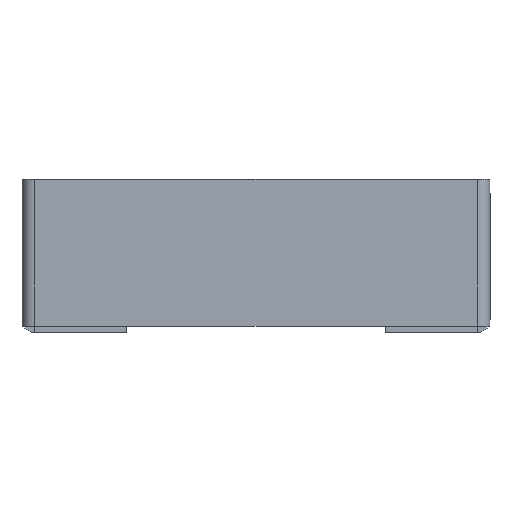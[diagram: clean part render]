
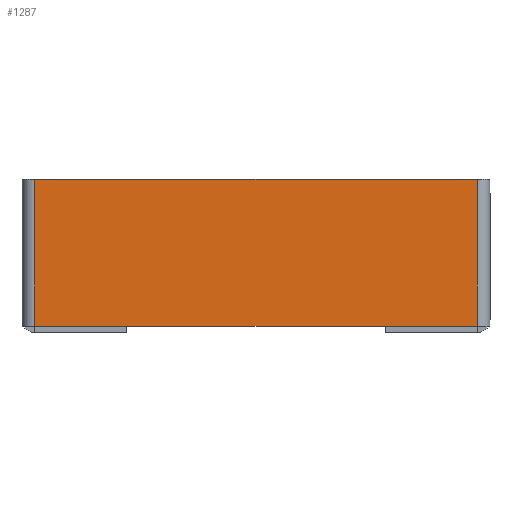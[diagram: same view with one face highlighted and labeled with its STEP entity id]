
A CAD part, front view. The second image highlights one B-rep face of the part: STEP entity #1287.
In plain terms, the highlighted planar face has unit normal (0, -1, 0).
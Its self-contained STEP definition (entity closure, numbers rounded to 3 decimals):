
#87 = LINE ( 'NONE', #2605, #1845 ) ;
#188 = EDGE_LOOP ( 'NONE', ( #3278, #5885, #3639, #2317 ) ) ;
#273 = VECTOR ( 'NONE', #1459, 1000. ) ;
#549 = DIRECTION ( 'NONE',  ( 0., 0., 1. ) ) ;
#673 = DIRECTION ( 'NONE',  ( 1., 0., 0. ) ) ;
#1023 = VERTEX_POINT ( 'NONE', #2453 ) ;
#1075 = CARTESIAN_POINT ( 'NONE',  ( -87.5, -2.5, 0. ) ) ;
#1118 = LINE ( 'NONE', #5063, #1982 ) ;
#1287 = ADVANCED_FACE ( 'NONE', ( #2831 ), #3274, .F. ) ;
#1459 = DIRECTION ( 'NONE',  ( -1., 0., 0. ) ) ;
#1481 = VERTEX_POINT ( 'NONE', #6071 ) ;
#1611 = VERTEX_POINT ( 'NONE', #2088 ) ;
#1640 = EDGE_CURVE ( 'NONE', #1023, #1481, #87, .T. ) ;
#1783 = EDGE_CURVE ( 'NONE', #2441, #1611, #1118, .T. ) ;
#1845 = VECTOR ( 'NONE', #549, 1000. ) ;
#1982 = VECTOR ( 'NONE', #3075, 1000. ) ;
#2088 = CARTESIAN_POINT ( 'NONE',  ( -87.5, -2.5, -58. ) ) ;
#2317 = ORIENTED_EDGE ( 'NONE', *, *, #5905, .F. ) ;
#2441 = VERTEX_POINT ( 'NONE', #1075 ) ;
#2453 = CARTESIAN_POINT ( 'NONE',  ( 87.5, -2.5, -58. ) ) ;
#2588 = AXIS2_PLACEMENT_3D ( 'NONE', #2709, #6249, #5185 ) ;
#2605 = CARTESIAN_POINT ( 'NONE',  ( 87.5, -2.5, -58. ) ) ;
#2709 = CARTESIAN_POINT ( 'NONE',  ( 0., -2.5, 0. ) ) ;
#2831 = FACE_OUTER_BOUND ( 'NONE', #188, .T. ) ;
#3075 = DIRECTION ( 'NONE',  ( 0., 0., -1. ) ) ;
#3274 = PLANE ( 'NONE',  #2588 ) ;
#3278 = ORIENTED_EDGE ( 'NONE', *, *, #1783, .T. ) ;
#3639 = ORIENTED_EDGE ( 'NONE', *, *, #1640, .T. ) ;
#4680 = VECTOR ( 'NONE', #673, 1000. ) ;
#5063 = CARTESIAN_POINT ( 'NONE',  ( -87.5, -2.5, 0. ) ) ;
#5185 = DIRECTION ( 'NONE',  ( 0., 0., 1. ) ) ;
#5691 = EDGE_CURVE ( 'NONE', #1023, #1611, #5700, .T. ) ;
#5700 = LINE ( 'NONE', #6564, #273 ) ;
#5885 = ORIENTED_EDGE ( 'NONE', *, *, #5691, .F. ) ;
#5905 = EDGE_CURVE ( 'NONE', #2441, #1481, #6489, .T. ) ;
#6071 = CARTESIAN_POINT ( 'NONE',  ( 87.5, -2.5, 0. ) ) ;
#6249 = DIRECTION ( 'NONE',  ( 0., 1., 0. ) ) ;
#6299 = CARTESIAN_POINT ( 'NONE',  ( -90., -2.5, 0. ) ) ;
#6489 = LINE ( 'NONE', #6299, #4680 ) ;
#6564 = CARTESIAN_POINT ( 'NONE',  ( -90., -2.5, -58. ) ) ;
